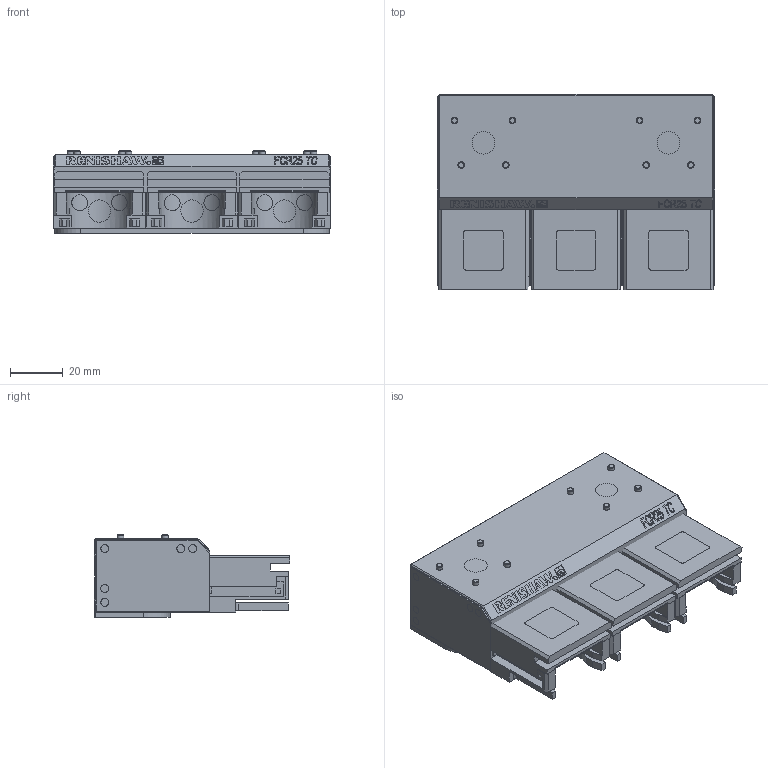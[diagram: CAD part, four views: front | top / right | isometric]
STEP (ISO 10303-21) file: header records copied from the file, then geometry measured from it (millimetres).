
FILE_DESCRIPTION(/* description */ (''),/* implementation_level */ '2;1');
FILE_NAME(/* name */ 'LA-2237-0010#-C.stp',/* time_stamp */ '2012-09-04T14:39:29+01:00',/* author */ (''),/* organization */ (''),/* preprocessor_version */ 'ST-DEVELOPER v11',/* originating_system */ 'SIEMENS PLM Software NX 7.5',/* authorisation */ '');
FILE_SCHEMA (('AUTOMOTIVE_DESIGN { 1 0 10303 214 1 1 1 1 }'));
Length unit declared in the file: millimetre
Products named in the file (1): rt133622tjr3
Bounding box: 105.75 x 74.5 x 31.5 mm (x, y, z)
Volume: 163988.4 mm3; surface area: 39012.2 mm2
Topology: 4 solids, 4 shells, 435 faces, 1282 edges, 937 vertices
Faces by surface type: plane 373, cylinder 51, cone 9, bspline 2
Full cylindrical faces by diameter (mm): 2.5 x8, 6.1 x1
Entity records: 17411 total; most frequent: CARTESIAN_POINT 3375, ORIENTED_EDGE 2528, DIRECTION 2230, EDGE_CURVE 1264, LINE 1026, VECTOR 1026, VERTEX_POINT 937, AXIS2_PLACEMENT_3D 602
